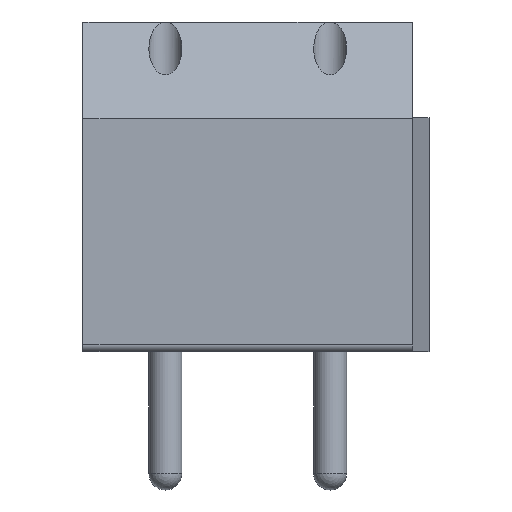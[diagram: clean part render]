
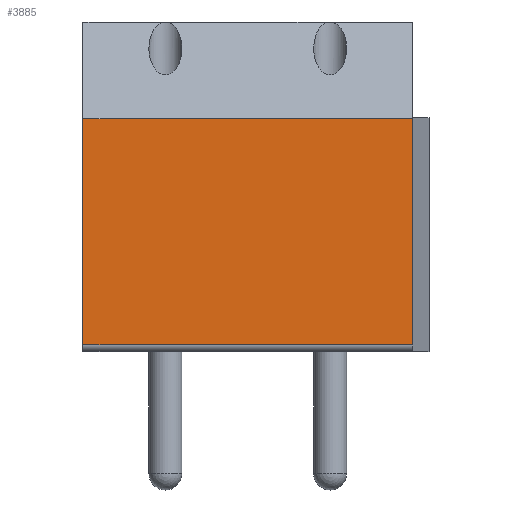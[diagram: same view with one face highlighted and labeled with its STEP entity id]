
A CAD part, front view. The second image highlights one B-rep face of the part: STEP entity #3885.
In plain terms, the highlighted planar face has unit normal (0, -1, 0).
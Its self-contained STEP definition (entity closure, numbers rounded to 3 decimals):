
#78 = DIRECTION ( 'NONE',  ( 1., 0., 0. ) ) ;
#200 = ORIENTED_EDGE ( 'NONE', *, *, #1175, .F. ) ;
#429 = CARTESIAN_POINT ( 'NONE',  ( 7.5, -3.8, 0.2 ) ) ;
#432 = CARTESIAN_POINT ( 'NONE',  ( 7.5, -3.8, 7.07 ) ) ;
#439 = ORIENTED_EDGE ( 'NONE', *, *, #1521, .T. ) ;
#465 = DIRECTION ( 'NONE',  ( 0., -1., 0. ) ) ;
#679 = DIRECTION ( 'NONE',  ( 0., 0., -1. ) ) ;
#741 = LINE ( 'NONE', #429, #1251 ) ;
#744 = LINE ( 'NONE', #3288, #1395 ) ;
#769 = ORIENTED_EDGE ( 'NONE', *, *, #1958, .T. ) ;
#799 = PLANE ( 'NONE',  #3607 ) ;
#1030 = EDGE_LOOP ( 'NONE', ( #439, #769, #200, #2360 ) ) ;
#1175 = EDGE_CURVE ( 'NONE', #3300, #1209, #2217, .T. ) ;
#1189 = VECTOR ( 'NONE', #1230, 1000. ) ;
#1209 = VERTEX_POINT ( 'NONE', #3650 ) ;
#1212 = CARTESIAN_POINT ( 'NONE',  ( 7.5, -3.8, 7.07 ) ) ;
#1230 = DIRECTION ( 'NONE',  ( -1., 0., 0. ) ) ;
#1251 = VECTOR ( 'NONE', #1706, 1000. ) ;
#1395 = VECTOR ( 'NONE', #78, 1000. ) ;
#1520 = CARTESIAN_POINT ( 'NONE',  ( -2.5, -3.8, 0.2 ) ) ;
#1521 = EDGE_CURVE ( 'NONE', #2789, #2591, #741, .T. ) ;
#1699 = CARTESIAN_POINT ( 'NONE',  ( 7.5, -3.8, 0.2 ) ) ;
#1706 = DIRECTION ( 'NONE',  ( 0., 0., 1. ) ) ;
#1958 = EDGE_CURVE ( 'NONE', #2591, #1209, #3380, .T. ) ;
#2217 = LINE ( 'NONE', #2434, #3516 ) ;
#2360 = ORIENTED_EDGE ( 'NONE', *, *, #2588, .T. ) ;
#2388 = DIRECTION ( 'NONE',  ( 0., 0., 1. ) ) ;
#2434 = CARTESIAN_POINT ( 'NONE',  ( -2.5, -3.8, 0.2 ) ) ;
#2588 = EDGE_CURVE ( 'NONE', #3300, #2789, #744, .T. ) ;
#2591 = VERTEX_POINT ( 'NONE', #432 ) ;
#2789 = VERTEX_POINT ( 'NONE', #1699 ) ;
#3288 = CARTESIAN_POINT ( 'NONE',  ( -2.5, -3.8, 0.2 ) ) ;
#3300 = VERTEX_POINT ( 'NONE', #1520 ) ;
#3380 = LINE ( 'NONE', #1212, #1189 ) ;
#3516 = VECTOR ( 'NONE', #2388, 1000. ) ;
#3539 = CARTESIAN_POINT ( 'NONE',  ( -7.5, -3.8, 0. ) ) ;
#3607 = AXIS2_PLACEMENT_3D ( 'NONE', #3539, #465, #679 ) ;
#3650 = CARTESIAN_POINT ( 'NONE',  ( -2.5, -3.8, 7.07 ) ) ;
#3885 = ADVANCED_FACE ( 'NONE', ( #3972 ), #799, .T. ) ;
#3972 = FACE_OUTER_BOUND ( 'NONE', #1030, .T. ) ;
